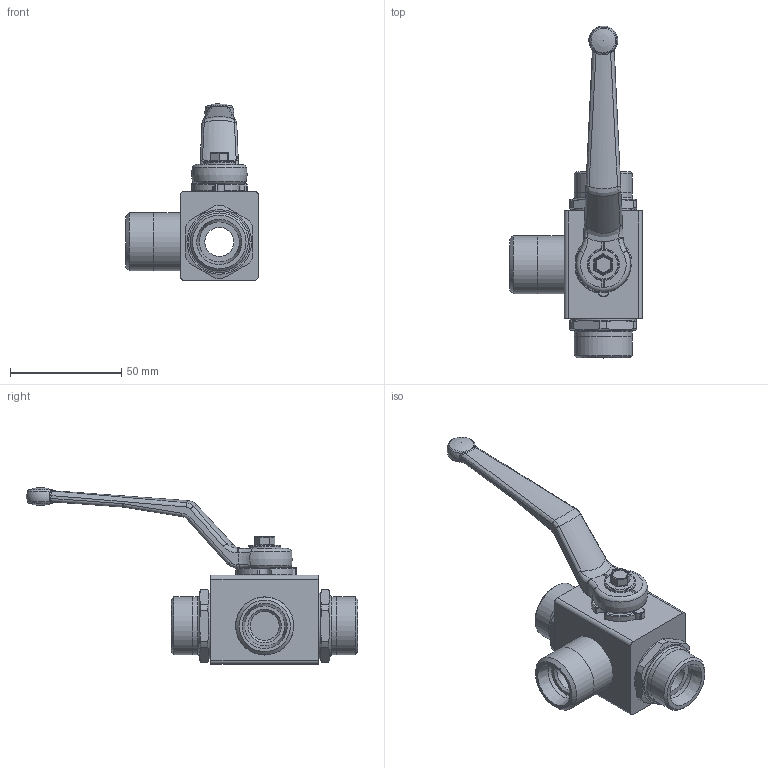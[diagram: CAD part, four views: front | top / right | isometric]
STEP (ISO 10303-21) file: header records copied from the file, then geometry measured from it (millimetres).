
FILE_DESCRIPTION( ( 'Unknown' ), '1' );
FILE_NAME( 'H:/PISTER/3D-MODELLE/BK3 stp/BK3 DN13 18L.stp', 'Unknown', ( 'Unknown' ), ( 'Unknown' ), 'PSStep 14.0', 'Unknown', ' ' );
FILE_SCHEMA( ( 'AUTOMOTIVE_DESIGN { 1 0 10303 214 1 1 1 1 }' ) );
Length unit declared in the file: millimetre
Products named in the file (10): Assem1; 06-013-102-oa7; 09-09-002; 58-28740-07-oa8; Griff_SW9; 58-0933-133; 04-013-133-oa9; 04-013-133-oa10; 04-013-071-oa11; 01-013-025-oa12
Assembly tree (9 placements, depth 2):
  Assem1
    06-013-102-oa7
    09-09-002
    58-28740-07-oa8
    Griff_SW9
    58-0933-133
    04-013-133-oa9
    04-013-133-oa10
    04-013-071-oa11
    01-013-025-oa12
Bounding box: 59.5 x 148.8 x 79.3 mm (x, y, z)
Volume: 46025.6 mm3; surface area: 34681.2 mm2
Topology: 9 solids, 9 shells, 369 faces, 909 edges, 548 vertices
Faces by surface type: cylinder 129, plane 117, bspline 42, torus 40, cone 21, sphere 20
Full cylindrical faces by diameter (mm): 4.2 x1, 4.98 x1, 5 x1, 13 x3, 14 x2, 14.3 x1, 18 x3, 26 x6, 26.1 x1, 29.5 x2, 30 x2
Entity records: 15078 total; most frequent: CARTESIAN_POINT 3832, DIRECTION 1759, ORIENTED_EDGE 1602, EDGE_CURVE 801, AXIS2_PLACEMENT_3D 719, VERTEX_POINT 517, EDGE_LOOP 456, FACE_OUTER_BOUND 404
